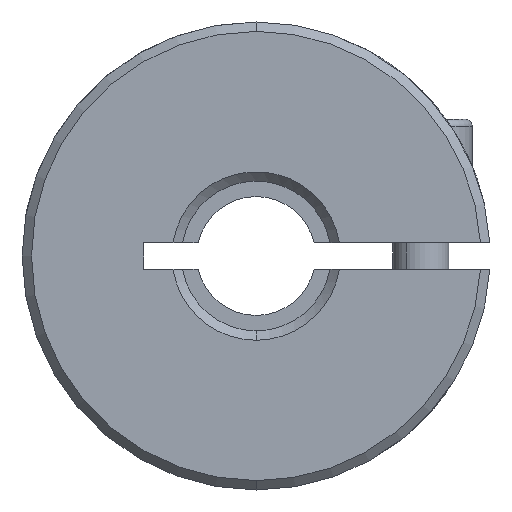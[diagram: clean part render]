
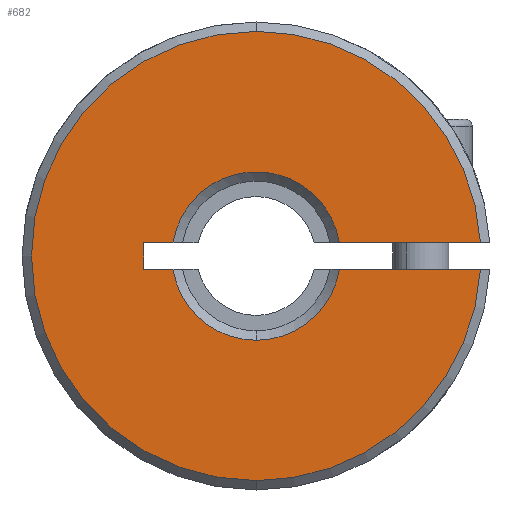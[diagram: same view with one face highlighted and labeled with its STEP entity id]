
A CAD part, front view. The second image highlights one B-rep face of the part: STEP entity #682.
In plain terms, the highlighted planar face has unit normal (0, -1, 0).
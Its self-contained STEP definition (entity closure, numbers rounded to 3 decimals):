
#22 = FACE_OUTER_BOUND ( 'NONE', #310, .T. ) ;
#27 = CARTESIAN_POINT ( 'NONE',  ( -6., 0.25, 0.7 ) ) ;
#76 = DIRECTION ( 'NONE',  ( 1., 0., 0. ) ) ;
#108 = CARTESIAN_POINT ( 'NONE',  ( -6., 0.25, 0.7 ) ) ;
#111 = CIRCLE ( 'NONE', #3638, 4.5 ) ;
#222 = VECTOR ( 'NONE', #1978, 1000. ) ;
#310 = EDGE_LOOP ( 'NONE', ( #5762, #2510, #3231, #5651, #3768, #4184, #519, #4579, #4531, #5517, #3585 ) ) ;
#378 = CARTESIAN_POINT ( 'NONE',  ( -6., 0.25, -0.7 ) ) ;
#439 = DIRECTION ( 'NONE',  ( -1., 0., 0. ) ) ;
#494 = PLANE ( 'NONE',  #1737 ) ;
#511 = LINE ( 'NONE', #2329, #2513 ) ;
#519 = ORIENTED_EDGE ( 'NONE', *, *, #5581, .F. ) ;
#583 = CARTESIAN_POINT ( 'NONE',  ( -6., 0.25, 0.7 ) ) ;
#640 = AXIS2_PLACEMENT_3D ( 'NONE', #3345, #5204, #1551 ) ;
#649 = CARTESIAN_POINT ( 'NONE',  ( 0., 0.25, 0. ) ) ;
#654 = LINE ( 'NONE', #1410, #998 ) ;
#668 = VERTEX_POINT ( 'NONE', #4502 ) ;
#682 = ADVANCED_FACE ( 'NONE', ( #22 ), #494, .F. ) ;
#824 = AXIS2_PLACEMENT_3D ( 'NONE', #649, #5290, #2460 ) ;
#889 = DIRECTION ( 'NONE',  ( 0., 0., 1. ) ) ;
#998 = VECTOR ( 'NONE', #5031, 1000. ) ;
#1061 = VERTEX_POINT ( 'NONE', #2943 ) ;
#1129 = CARTESIAN_POINT ( 'NONE',  ( 0., 0.25, 0. ) ) ;
#1272 = LINE ( 'NONE', #27, #2904 ) ;
#1389 = DIRECTION ( 'NONE',  ( 0., 0., 1. ) ) ;
#1410 = CARTESIAN_POINT ( 'NONE',  ( -6., 0.25, -0.7 ) ) ;
#1492 = DIRECTION ( 'NONE',  ( 0., 1., 0. ) ) ;
#1551 = DIRECTION ( 'NONE',  ( 0., 0., 1. ) ) ;
#1694 = VERTEX_POINT ( 'NONE', #1787 ) ;
#1737 = AXIS2_PLACEMENT_3D ( 'NONE', #4534, #2308, #1389 ) ;
#1787 = CARTESIAN_POINT ( 'NONE',  ( 4.445, 0.25, -0.7 ) ) ;
#1910 = CARTESIAN_POINT ( 'NONE',  ( 4.445, 0.25, 0.7 ) ) ;
#1911 = EDGE_CURVE ( 'NONE', #1694, #2637, #111, .T. ) ;
#1978 = DIRECTION ( 'NONE',  ( -1., 0., 0. ) ) ;
#2082 = CARTESIAN_POINT ( 'NONE',  ( 0., 0.25, 0. ) ) ;
#2164 = DIRECTION ( 'NONE',  ( 1., 0., 0. ) ) ;
#2189 = EDGE_CURVE ( 'NONE', #5695, #3822, #4142, .T. ) ;
#2308 = DIRECTION ( 'NONE',  ( 0., 1., 0. ) ) ;
#2329 = CARTESIAN_POINT ( 'NONE',  ( -6., 0.25, -0.7 ) ) ;
#2400 = DIRECTION ( 'NONE',  ( 0., 0., 1. ) ) ;
#2417 = CIRCLE ( 'NONE', #4214, 12. ) ;
#2437 = VERTEX_POINT ( 'NONE', #4646 ) ;
#2460 = DIRECTION ( 'NONE',  ( 0., 0., 1. ) ) ;
#2491 = CARTESIAN_POINT ( 'NONE',  ( 0., 0.25, 0. ) ) ;
#2510 = ORIENTED_EDGE ( 'NONE', *, *, #2574, .T. ) ;
#2513 = VECTOR ( 'NONE', #76, 1000. ) ;
#2574 = EDGE_CURVE ( 'NONE', #2437, #5598, #5273, .T. ) ;
#2637 = VERTEX_POINT ( 'NONE', #5175 ) ;
#2904 = VECTOR ( 'NONE', #439, 1000. ) ;
#2943 = CARTESIAN_POINT ( 'NONE',  ( 11.98, 0.25, 0.7 ) ) ;
#3013 = CIRCLE ( 'NONE', #3388, 4.5 ) ;
#3231 = ORIENTED_EDGE ( 'NONE', *, *, #4798, .F. ) ;
#3345 = CARTESIAN_POINT ( 'NONE',  ( 0., 0.25, 0. ) ) ;
#3388 = AXIS2_PLACEMENT_3D ( 'NONE', #1129, #3856, #3421 ) ;
#3401 = EDGE_CURVE ( 'NONE', #3822, #668, #5107, .T. ) ;
#3421 = DIRECTION ( 'NONE',  ( 0., 0., 1. ) ) ;
#3585 = ORIENTED_EDGE ( 'NONE', *, *, #5575, .F. ) ;
#3638 = AXIS2_PLACEMENT_3D ( 'NONE', #2082, #1492, #5549 ) ;
#3768 = ORIENTED_EDGE ( 'NONE', *, *, #2189, .T. ) ;
#3822 = VERTEX_POINT ( 'NONE', #5130 ) ;
#3856 = DIRECTION ( 'NONE',  ( 0., 1., 0. ) ) ;
#3895 = CARTESIAN_POINT ( 'NONE',  ( -4.445, 0.25, -0.7 ) ) ;
#4091 = LINE ( 'NONE', #378, #5264 ) ;
#4142 = CIRCLE ( 'NONE', #824, 12. ) ;
#4174 = VERTEX_POINT ( 'NONE', #3895 ) ;
#4184 = ORIENTED_EDGE ( 'NONE', *, *, #3401, .T. ) ;
#4214 = AXIS2_PLACEMENT_3D ( 'NONE', #2491, #4299, #889 ) ;
#4299 = DIRECTION ( 'NONE',  ( 0., -1., 0. ) ) ;
#4347 = CARTESIAN_POINT ( 'NONE',  ( -6., 0.25, -0.7 ) ) ;
#4395 = EDGE_CURVE ( 'NONE', #2637, #4174, #3013, .T. ) ;
#4502 = CARTESIAN_POINT ( 'NONE',  ( 11.98, 0.25, -0.7 ) ) ;
#4531 = ORIENTED_EDGE ( 'NONE', *, *, #4395, .T. ) ;
#4534 = CARTESIAN_POINT ( 'NONE',  ( -50., 0.25, 17.349 ) ) ;
#4570 = CARTESIAN_POINT ( 'NONE',  ( 0., 0.25, 12. ) ) ;
#4579 = ORIENTED_EDGE ( 'NONE', *, *, #1911, .T. ) ;
#4596 = EDGE_CURVE ( 'NONE', #5326, #4174, #4091, .T. ) ;
#4646 = CARTESIAN_POINT ( 'NONE',  ( -4.445, 0.25, 0.7 ) ) ;
#4653 = LINE ( 'NONE', #583, #222 ) ;
#4798 = EDGE_CURVE ( 'NONE', #1061, #5598, #4653, .T. ) ;
#5031 = DIRECTION ( 'NONE',  ( 0., 0., -1. ) ) ;
#5107 = CIRCLE ( 'NONE', #5569, 12. ) ;
#5130 = CARTESIAN_POINT ( 'NONE',  ( 0., 0.25, -12. ) ) ;
#5175 = CARTESIAN_POINT ( 'NONE',  ( 0., 0.25, -4.5 ) ) ;
#5190 = CARTESIAN_POINT ( 'NONE',  ( 0., 0.25, 0. ) ) ;
#5204 = DIRECTION ( 'NONE',  ( 0., 1., 0. ) ) ;
#5212 = VERTEX_POINT ( 'NONE', #108 ) ;
#5264 = VECTOR ( 'NONE', #2164, 1000. ) ;
#5273 = CIRCLE ( 'NONE', #640, 4.5 ) ;
#5290 = DIRECTION ( 'NONE',  ( 0., -1., 0. ) ) ;
#5326 = VERTEX_POINT ( 'NONE', #4347 ) ;
#5517 = ORIENTED_EDGE ( 'NONE', *, *, #4596, .F. ) ;
#5549 = DIRECTION ( 'NONE',  ( 0., 0., 1. ) ) ;
#5569 = AXIS2_PLACEMENT_3D ( 'NONE', #5190, #5658, #2400 ) ;
#5575 = EDGE_CURVE ( 'NONE', #5212, #5326, #654, .T. ) ;
#5581 = EDGE_CURVE ( 'NONE', #1694, #668, #511, .T. ) ;
#5598 = VERTEX_POINT ( 'NONE', #1910 ) ;
#5651 = ORIENTED_EDGE ( 'NONE', *, *, #5679, .T. ) ;
#5658 = DIRECTION ( 'NONE',  ( 0., -1., 0. ) ) ;
#5679 = EDGE_CURVE ( 'NONE', #1061, #5695, #2417, .T. ) ;
#5695 = VERTEX_POINT ( 'NONE', #4570 ) ;
#5749 = EDGE_CURVE ( 'NONE', #2437, #5212, #1272, .T. ) ;
#5762 = ORIENTED_EDGE ( 'NONE', *, *, #5749, .F. ) ;
